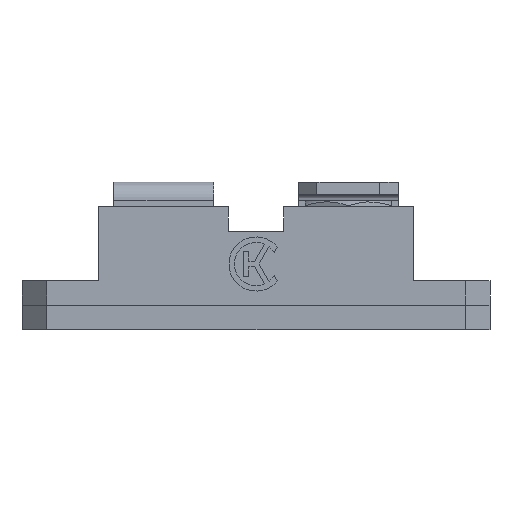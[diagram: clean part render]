
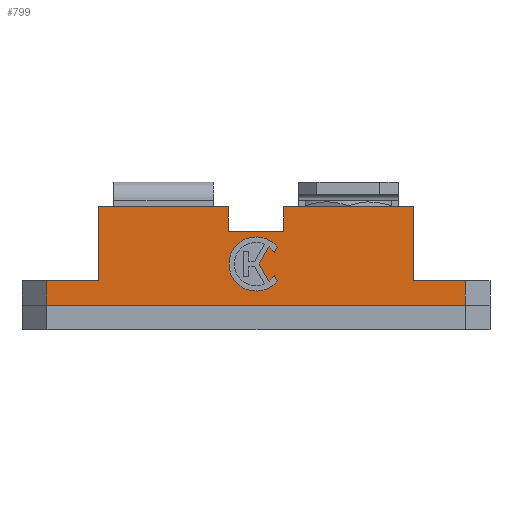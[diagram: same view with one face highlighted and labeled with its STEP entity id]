
A CAD part, front view. The second image highlights one B-rep face of the part: STEP entity #799.
In plain terms, the highlighted planar face has unit normal (0, -1, 0) as drawn and (-1, 0, 0) by its records, which use the part's own axes.
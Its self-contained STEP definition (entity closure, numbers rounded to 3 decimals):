
#799=ADVANCED_FACE('',(#1881,#1883),#1885,.T.);
#1881=FACE_BOUND('',#1882,.T.);
#1882=EDGE_LOOP('',(#2701,#2702,#2703,#2704,#2705,#2706,#2707,#2708,#2709,#2710,
#2711,#2712));
#1883=FACE_BOUND('',#1884,.T.);
#1884=EDGE_LOOP('',(#2713,#2714,#2715,#2716,#2717,#2718,#2719));
#1885=PLANE('',#1886);
#1886=AXIS2_PLACEMENT_3D('',#1887,#1888,#1889);
#1887=CARTESIAN_POINT('',(-12.5,17.,0.));
#1888=DIRECTION('',(-1.,0.,0.));
#1889=DIRECTION('',(0.,-1.,0.));
#2701=ORIENTED_EDGE('',*,*,#3249,.T.);
#2702=ORIENTED_EDGE('',*,*,#3250,.F.);
#2703=ORIENTED_EDGE('',*,*,#3251,.T.);
#2704=ORIENTED_EDGE('',*,*,#3252,.T.);
#2705=ORIENTED_EDGE('',*,*,#3253,.F.);
#2706=ORIENTED_EDGE('',*,*,#3254,.T.);
#2707=ORIENTED_EDGE('',*,*,#3255,.T.);
#2708=ORIENTED_EDGE('',*,*,#3256,.T.);
#2709=ORIENTED_EDGE('',*,*,#3257,.T.);
#2710=ORIENTED_EDGE('',*,*,#3258,.F.);
#2711=ORIENTED_EDGE('',*,*,#3259,.T.);
#2712=ORIENTED_EDGE('',*,*,#3260,.T.);
#2713=ORIENTED_EDGE('',*,*,#3248,.T.);
#2714=ORIENTED_EDGE('',*,*,#3246,.T.);
#2715=ORIENTED_EDGE('',*,*,#3244,.T.);
#2716=ORIENTED_EDGE('',*,*,#3242,.T.);
#2717=ORIENTED_EDGE('',*,*,#3240,.T.);
#2718=ORIENTED_EDGE('',*,*,#3238,.T.);
#2719=ORIENTED_EDGE('',*,*,#3235,.T.);
#3235=EDGE_CURVE('',#3643,#3644,#3645,.F.);
#3238=EDGE_CURVE('',#3648,#3643,#3649,.F.);
#3240=EDGE_CURVE('',#3651,#3648,#3652,.F.);
#3242=EDGE_CURVE('',#3654,#3651,#3655,.F.);
#3244=EDGE_CURVE('',#3657,#3654,#3658,.F.);
#3246=EDGE_CURVE('',#3660,#3657,#3661,.F.);
#3248=EDGE_CURVE('',#3644,#3660,#3663,.F.);
#3249=EDGE_CURVE('',#3664,#3665,#3666,.F.);
#3250=EDGE_CURVE('',#3667,#3665,#3668,.T.);
#3251=EDGE_CURVE('',#3667,#3669,#3670,.F.);
#3252=EDGE_CURVE('',#3669,#3671,#3672,.T.);
#3253=EDGE_CURVE('',#3673,#3671,#3674,.T.);
#3254=EDGE_CURVE('',#3673,#3675,#3676,.T.);
#3255=EDGE_CURVE('',#3675,#3677,#3678,.T.);
#3256=EDGE_CURVE('',#3677,#3679,#3680,.T.);
#3257=EDGE_CURVE('',#3679,#3681,#3682,.F.);
#3258=EDGE_CURVE('',#3683,#3681,#3684,.T.);
#3259=EDGE_CURVE('',#3683,#3685,#3686,.F.);
#3260=EDGE_CURVE('',#3685,#3664,#3687,.T.);
#3643=VERTEX_POINT('',#4437);
#3644=VERTEX_POINT('',#4438);
#3645=CIRCLE('',#4439,1.757);
#3648=VERTEX_POINT('',#4449);
#3649=LINE('',#4450,#4451);
#3651=VERTEX_POINT('',#4456);
#3652=CIRCLE('',#4457,2.196);
#3654=VERTEX_POINT('',#4464);
#3655=LINE('',#4465,#4466);
#3657=VERTEX_POINT('',#4471);
#3658=CIRCLE('',#4472,1.757);
#3660=VERTEX_POINT('',#4479);
#3661=LINE('',#4480,#4481);
#3663=LINE('',#4486,#4487);
#3664=VERTEX_POINT('',#4489);
#3665=VERTEX_POINT('',#4490);
#3666=LINE('',#4491,#4492);
#3667=VERTEX_POINT('',#4494);
#3668=LINE('',#4495,#4496);
#3669=VERTEX_POINT('',#4498);
#3670=LINE('',#4499,#4500);
#3671=VERTEX_POINT('',#4502);
#3672=LINE('',#4503,#4504);
#3673=VERTEX_POINT('',#4506);
#3674=LINE('',#4507,#4508);
#3675=VERTEX_POINT('',#4510);
#3676=LINE('',#4511,#4512);
#3677=VERTEX_POINT('',#4514);
#3678=LINE('',#4515,#4516);
#3679=VERTEX_POINT('',#4518);
#3680=LINE('',#4519,#4520);
#3681=VERTEX_POINT('',#4522);
#3682=LINE('',#4523,#4524);
#3683=VERTEX_POINT('',#4526);
#3684=LINE('',#4527,#4528);
#3685=VERTEX_POINT('',#4530);
#3686=LINE('',#4531,#4532);
#3687=LINE('',#4534,#4535);
#4437=CARTESIAN_POINT('',(-12.5,-1.478,4.299));
#4438=CARTESIAN_POINT('',(-12.5,-1.062,4.749));
#4439=AXIS2_PLACEMENT_3D('',#4440,#4441,#4442);
#4440=CARTESIAN_POINT('',(-12.5,0.,3.349));
#4441=DIRECTION('',(1.,0.,0.));
#4442=DIRECTION('',(0.,-0.604,0.797));
#4449=CARTESIAN_POINT('',(-12.5,-1.719,4.716));
#4450=CARTESIAN_POINT('',(-12.5,-1.478,4.299));
#4451=VECTOR('',#4452,1.);
#4452=DIRECTION('',(0.,-0.5,0.866));
#4456=CARTESIAN_POINT('',(-12.5,-1.719,1.982));
#4457=AXIS2_PLACEMENT_3D('',#4458,#4459,#4460);
#4458=CARTESIAN_POINT('',(-12.5,0.,3.349));
#4459=DIRECTION('',(-1.,0.,0.));
#4460=DIRECTION('',(0.,-0.783,0.622));
#4464=CARTESIAN_POINT('',(-12.5,-1.478,2.399));
#4465=CARTESIAN_POINT('',(-12.5,-1.719,1.982));
#4466=VECTOR('',#4467,1.);
#4467=DIRECTION('',(0.,0.5,0.866));
#4471=CARTESIAN_POINT('',(-12.5,-1.062,1.949));
#4472=AXIS2_PLACEMENT_3D('',#4473,#4474,#4475);
#4473=CARTESIAN_POINT('',(-12.5,0.,3.349));
#4474=DIRECTION('',(1.,0.,0.));
#4475=DIRECTION('',(0.,-0.841,-0.541));
#4479=CARTESIAN_POINT('',(-12.5,-0.254,3.349));
#4480=CARTESIAN_POINT('',(-12.5,-1.062,1.949));
#4481=VECTOR('',#4482,1.);
#4482=DIRECTION('',(0.,0.5,0.866));
#4486=CARTESIAN_POINT('',(-12.5,-0.254,3.349));
#4487=VECTOR('',#4488,1.);
#4488=DIRECTION('',(0.,-0.5,0.866));
#4489=CARTESIAN_POINT('',(-12.5,2.25,6.));
#4490=CARTESIAN_POINT('',(-12.5,2.25,8.));
#4491=CARTESIAN_POINT('',(-12.5,2.25,8.));
#4492=VECTOR('',#4493,1.);
#4493=DIRECTION('',(0.,0.,-1.));
#4494=CARTESIAN_POINT('',(-12.5,12.75,8.));
#4495=CARTESIAN_POINT('',(-12.5,12.75,8.));
#4496=VECTOR('',#4497,1.);
#4497=DIRECTION('',(0.,-1.,0.));
#4498=CARTESIAN_POINT('',(-12.5,12.75,2.));
#4499=CARTESIAN_POINT('',(-12.5,12.75,2.));
#4500=VECTOR('',#4501,1.);
#4501=DIRECTION('',(0.,0.,1.));
#4502=CARTESIAN_POINT('',(-12.5,17.,2.));
#4503=CARTESIAN_POINT('',(-12.5,12.75,2.));
#4504=VECTOR('',#4505,1.);
#4505=DIRECTION('',(0.,1.,0.));
#4506=CARTESIAN_POINT('',(-12.5,17.,0.));
#4507=CARTESIAN_POINT('',(-12.5,17.,0.));
#4508=VECTOR('',#4509,1.);
#4509=DIRECTION('',(0.,0.,1.));
#4510=CARTESIAN_POINT('',(-12.5,-17.,0.));
#4511=CARTESIAN_POINT('',(-12.5,17.,0.));
#4512=VECTOR('',#4513,1.);
#4513=DIRECTION('',(0.,-1.,0.));
#4514=CARTESIAN_POINT('',(-12.5,-17.,2.));
#4515=CARTESIAN_POINT('',(-12.5,-17.,0.));
#4516=VECTOR('',#4517,1.);
#4517=DIRECTION('',(0.,0.,1.));
#4518=CARTESIAN_POINT('',(-12.5,-12.75,2.));
#4519=CARTESIAN_POINT('',(-12.5,-17.,2.));
#4520=VECTOR('',#4521,1.);
#4521=DIRECTION('',(0.,1.,0.));
#4522=CARTESIAN_POINT('',(-12.5,-12.75,8.));
#4523=CARTESIAN_POINT('',(-12.5,-12.75,8.));
#4524=VECTOR('',#4525,1.);
#4525=DIRECTION('',(0.,0.,-1.));
#4526=CARTESIAN_POINT('',(-12.5,-2.25,8.));
#4527=CARTESIAN_POINT('',(-12.5,-2.25,8.));
#4528=VECTOR('',#4529,1.);
#4529=DIRECTION('',(0.,-1.,0.));
#4530=CARTESIAN_POINT('',(-12.5,-2.25,6.));
#4531=CARTESIAN_POINT('',(-12.5,-2.25,6.));
#4532=VECTOR('',#4533,1.);
#4533=DIRECTION('',(0.,0.,1.));
#4534=CARTESIAN_POINT('',(-12.5,-2.25,6.));
#4535=VECTOR('',#4536,1.);
#4536=DIRECTION('',(0.,1.,0.));
